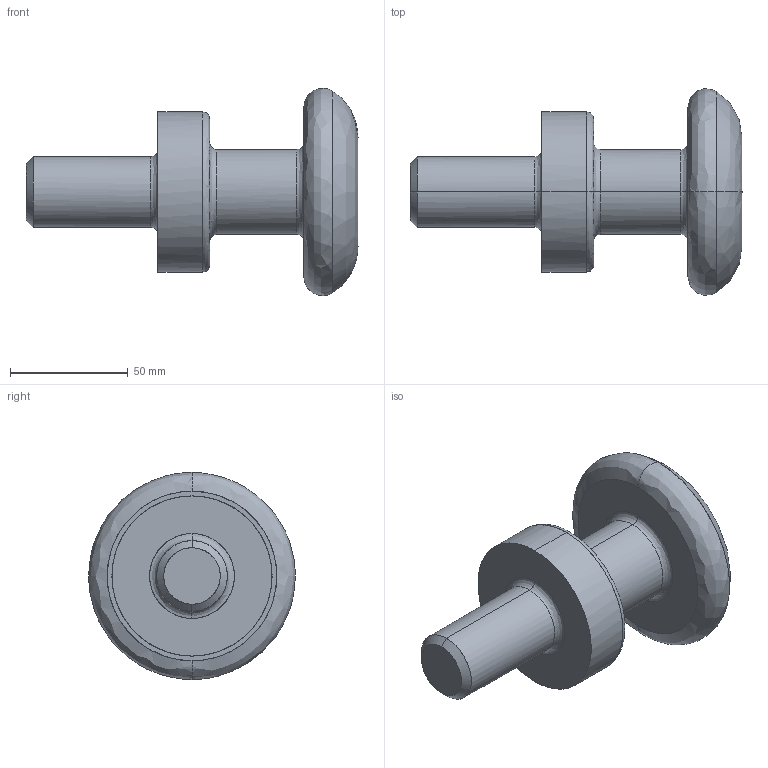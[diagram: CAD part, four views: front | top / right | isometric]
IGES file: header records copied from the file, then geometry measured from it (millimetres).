
Global section: file name: E:\UnigraphicsGraphicData\MISUMI_PRESS-PARTS\IGES\3d_chnl30_03544_r00.igs; native system: NX V5.0; preprocessor: UGS NX IGES V5.0; author: MISUMI; date: 20110105.160222; units: millimetre
Bounding box: 141 x 87.89 x 87.96 mm (x, y, z)
Surface area: 35304.5 mm2 (no closed solid volume)
Topology: 0 solids, 0 shells, 32 faces, 236 edges, 236 vertices
Faces by surface type: bspline 32
